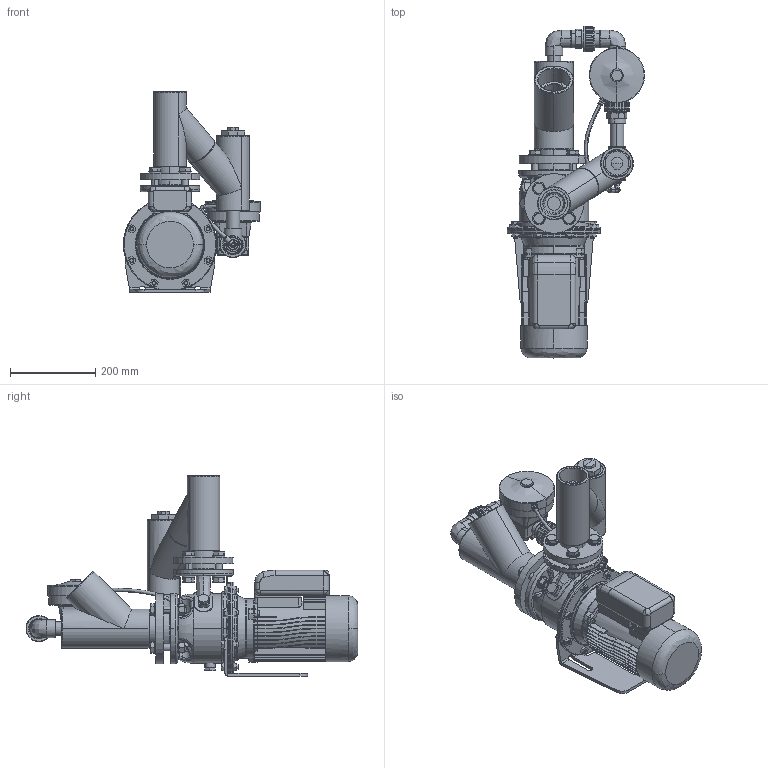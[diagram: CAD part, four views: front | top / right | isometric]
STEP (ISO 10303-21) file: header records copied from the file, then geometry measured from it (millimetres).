
FILE_DESCRIPTION (( 'STEP AP203' ), '1' );
FILE_NAME ('Lowara SHE 32-125 z.a.z auto. by-pass .STEP', '2011-04-05T07:47:32', ( '' ), ( '' ), 'SwSTEP 2.0', 'SolidWorks 2010', '' );
FILE_SCHEMA (( 'CONFIG_CONTROL_DESIGN' ));
Length unit declared in the file: millimetre
Products named in the file (1): Lowara SHE 32-125 z.a.z auto. by-pass 
Bounding box: 322.5 x 780.41 x 471.36 mm (x, y, z)
Volume: 13387361.7 mm3; surface area: 1744979.4 mm2
Topology: 65 solids, 67 shells, 2697 faces, 6811 edges, 4246 vertices
Faces by surface type: plane 1017, cylinder 872, cone 398, bspline 365, torus 45
Entity records: 104910 total; most frequent: CARTESIAN_POINT 42847, ORIENTED_EDGE 13408, DIRECTION 12510, EDGE_CURVE 6704, AXIS2_PLACEMENT_3D 4952, VERTEX_POINT 4246, EDGE_LOOP 2966, ADVANCED_FACE 2697
